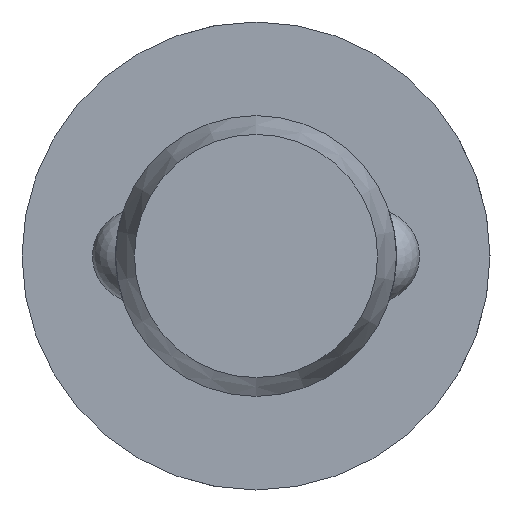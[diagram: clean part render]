
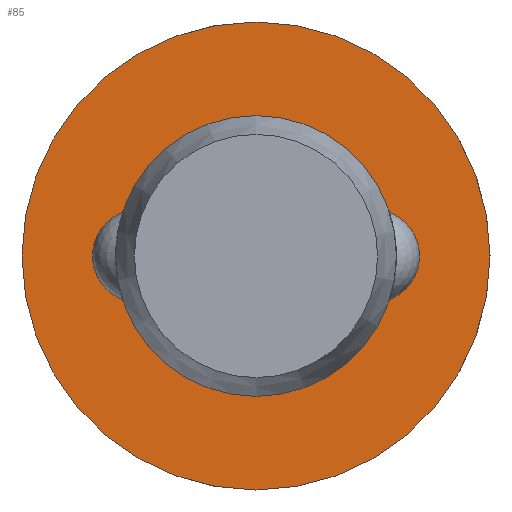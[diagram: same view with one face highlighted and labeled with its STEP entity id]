
A CAD part, left-side view. The second image highlights one B-rep face of the part: STEP entity #85.
In plain terms, the highlighted planar face has unit normal (-1, 0, 0).
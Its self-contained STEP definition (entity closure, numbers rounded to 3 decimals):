
#85 = ADVANCED_FACE( '', ( #131, #132 ), #133, .F. );
#131 = FACE_OUTER_BOUND( '', #204, .T. );
#132 = FACE_BOUND( '', #205, .T. );
#133 = PLANE( '', #206 );
#204 = EDGE_LOOP( '', ( #322 ) );
#205 = EDGE_LOOP( '', ( #323 ) );
#206 = AXIS2_PLACEMENT_3D( '', #324, #325, #326 );
#322 = ORIENTED_EDGE( '', *, *, #470, .F. );
#323 = ORIENTED_EDGE( '', *, *, #467, .T. );
#324 = CARTESIAN_POINT( '', ( 57., 3., 0. ) );
#325 = DIRECTION( '', ( 1., 0., 0. ) );
#326 = DIRECTION( '', ( 0., 0., -1. ) );
#467 = EDGE_CURVE( '', #541, #541, #542, .T. );
#470 = EDGE_CURVE( '', #547, #547, #548, .T. );
#541 = VERTEX_POINT( '', #749 );
#542 = CIRCLE( '', #750, 3. );
#547 = VERTEX_POINT( '', #817 );
#548 = CIRCLE( '', #818, 5. );
#749 = CARTESIAN_POINT( '', ( 57., 0., -3. ) );
#750 = AXIS2_PLACEMENT_3D( '', #897, #898, #899 );
#817 = CARTESIAN_POINT( '', ( 57., 0., -5. ) );
#818 = AXIS2_PLACEMENT_3D( '', #900, #901, #902 );
#897 = CARTESIAN_POINT( '', ( 57., 0., 0. ) );
#898 = DIRECTION( '', ( 1., 0., 0. ) );
#899 = DIRECTION( '', ( 0., 0., -1. ) );
#900 = CARTESIAN_POINT( '', ( 57., 0., 0. ) );
#901 = DIRECTION( '', ( 1., 0., 0. ) );
#902 = DIRECTION( '', ( 0., 0., -1. ) );
